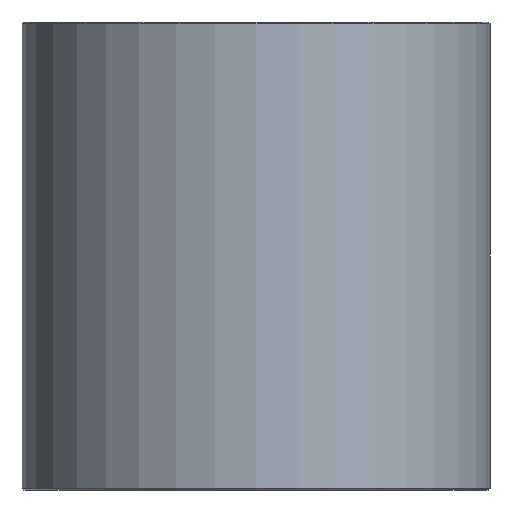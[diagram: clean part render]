
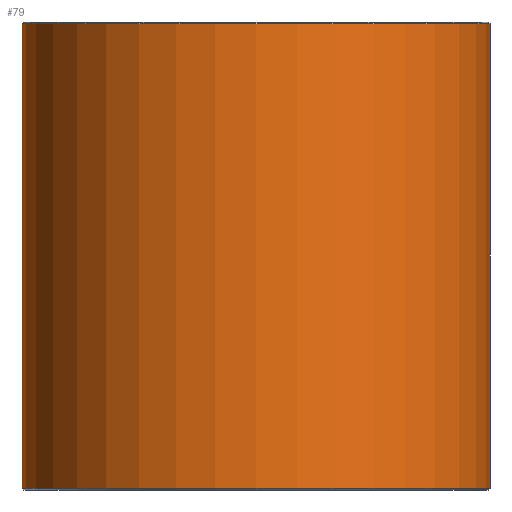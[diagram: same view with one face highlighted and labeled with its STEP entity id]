
A CAD part, front view. The second image highlights one B-rep face of the part: STEP entity #79.
In plain terms, the highlighted cylindrical face has radius 25 mm (diameter 50 mm), a full revolution.
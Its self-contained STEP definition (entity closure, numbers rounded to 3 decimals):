
#79=ADVANCED_FACE('',(#96,#97),#98,.T.);
#96=FACE_OUTER_BOUND('',#120,.T.);
#97=FACE_OUTER_BOUND('',#121,.T.);
#98=CYLINDRICAL_SURFACE('',#122,25.0);
#120=EDGE_LOOP('',(#152));
#121=EDGE_LOOP('',(#153));
#122=AXIS2_PLACEMENT_3D('',#154,#155,#156);
#152=ORIENTED_EDGE('',*,*,#178,.T.);
#153=ORIENTED_EDGE('',*,*,#177,.T.);
#154=CARTESIAN_POINT('',(0.,0.0,50.0));
#155=DIRECTION('',(0.0,0.0,-1.0));
#156=DIRECTION('',(-1.0,0.0,0.0));
#177=EDGE_CURVE('',#190,#190,#191,.T.);
#178=EDGE_CURVE('',#192,#192,#193,.F.);
#190=VERTEX_POINT('',#206);
#191=CIRCLE('',#207,25.0);
#192=VERTEX_POINT('',#208);
#193=CIRCLE('',#209,25.0);
#206=CARTESIAN_POINT('',(25.0,0.0,0.2));
#207=AXIS2_PLACEMENT_3D('',#227,#228,#229);
#208=CARTESIAN_POINT('',(25.0,0.,49.8));
#209=AXIS2_PLACEMENT_3D('',#230,#231,#232);
#227=CARTESIAN_POINT('',(0.,0.0,0.2));
#228=DIRECTION('',(0.0,0.0,1.0));
#229=DIRECTION('',(1.0,0.0,0.0));
#230=CARTESIAN_POINT('',(0.,0.0,49.8));
#231=DIRECTION('',(0.0,0.0,1.0));
#232=DIRECTION('',(1.0,0.0,0.0));
